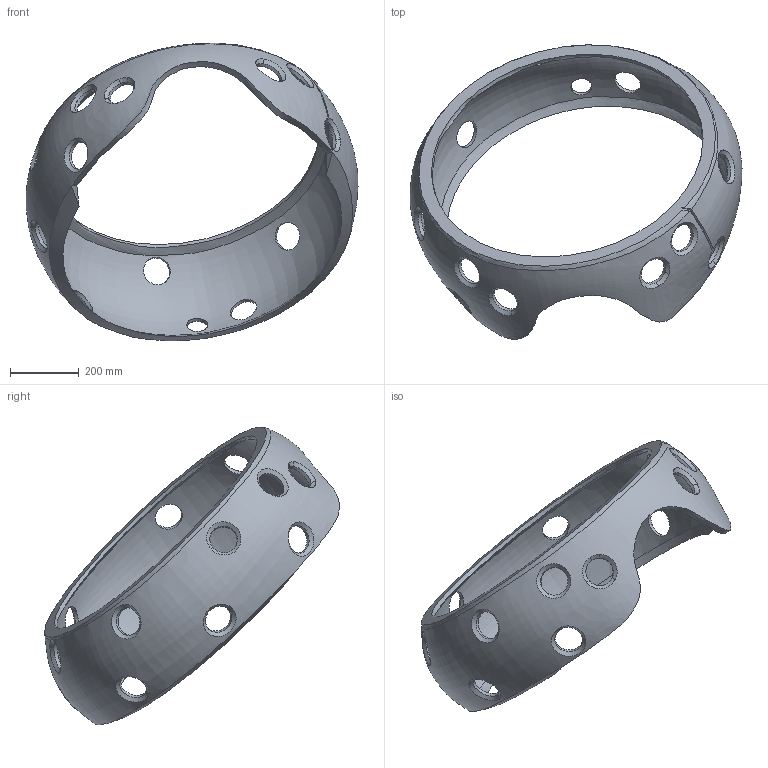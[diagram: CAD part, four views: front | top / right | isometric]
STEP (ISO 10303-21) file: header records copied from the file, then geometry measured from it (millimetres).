
FILE_DESCRIPTION(/* description */ (''),/* implementation_level */ '2;1');
FILE_NAME(/* name */ 'C:/Users/james/Desktop/Thingiverse/Quest2ControllerCoverLeft.step',/* time_stamp */ '2021-01-31T18:56:51-05:00',/* author */ (''),/* organization */ (''),/* preprocessor_version */ 'ST-DEVELOPER v18.1',/* originating_system */ 'Autodesk Translation Framework v9.7.1.1290',/* authorisation */ '');
FILE_SCHEMA (('AUTOMOTIVE_DESIGN { 1 0 10303 214 3 1 1 }'));
Length unit declared in the file: centimetre
Products named in the file (2): quest2_contollers_div2; RootNode
Assembly tree (1 placements, depth 2):
  quest2_contollers_div2
    RootNode
Bounding box: 968.44 x 859.12 x 869.17 mm (x, y, z)
Volume: 16539001.1 mm3; surface area: 1899839.8 mm2
Topology: 1 solids, 1 shells, 81 faces, 253 edges, 171 vertices
Faces by surface type: bspline 52, cylinder 16, plane 13
Full cylindrical faces by diameter (mm): 60.6 x1, 80.8 x15
Entity records: 28576 total; most frequent: CARTESIAN_POINT 26743, ORIENTED_EDGE 506, EDGE_CURVE 253, B_SPLINE_CURVE_WITH_KNOTS 187, VERTEX_POINT 171, DIRECTION 127, EDGE_LOOP 112, FACE_OUTER_BOUND 81
